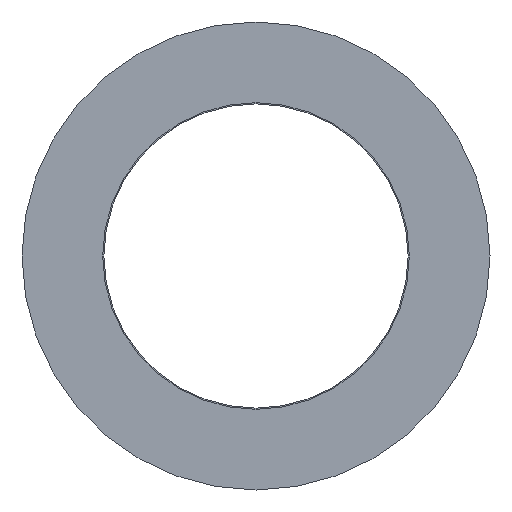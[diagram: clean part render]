
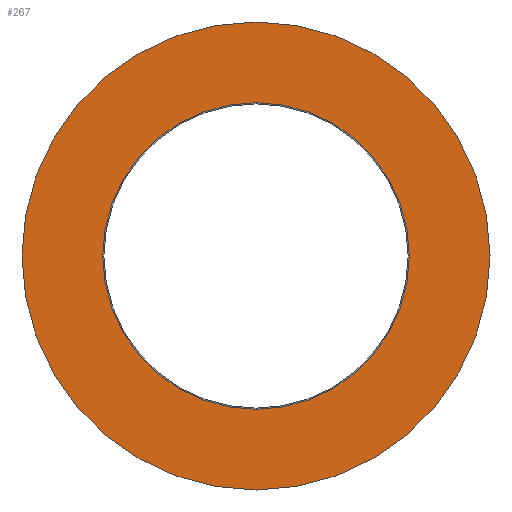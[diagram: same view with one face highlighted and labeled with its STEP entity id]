
A CAD part, left-side view. The second image highlights one B-rep face of the part: STEP entity #267.
In plain terms, the highlighted planar face has unit normal (-1, 0, 0).
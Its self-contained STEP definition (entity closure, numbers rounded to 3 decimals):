
#161=CARTESIAN_POINT('',(0.0,20.0,0.0));
#162=VERTEX_POINT('',#161);
#163=CARTESIAN_POINT('',(0.0,0.0,0.0));
#164=DIRECTION('',(1.0,0.0,0.0));
#165=DIRECTION('',(0.0,1.0,0.0));
#166=AXIS2_PLACEMENT_3D('',#163,#164,#165);
#167=CIRCLE('',#166,20.0);
#168=EDGE_CURVE('',#162,#162,#167,.T.);
#241=CARTESIAN_POINT('',(0.0,13.1,0.0));
#242=VERTEX_POINT('',#241);
#243=CARTESIAN_POINT('',(0.0,0.0,0.0));
#244=DIRECTION('',(1.0,0.0,0.0));
#245=DIRECTION('',(0.0,1.0,0.0));
#246=AXIS2_PLACEMENT_3D('',#243,#244,#245);
#247=CIRCLE('',#246,13.1);
#248=EDGE_CURVE('',#242,#242,#247,.T.);
#256=CARTESIAN_POINT('',(0.0,16.55,0.0));
#257=DIRECTION('',(-1.0,0.0,0.0));
#258=DIRECTION('',(0.0,0.0,1.0));
#259=AXIS2_PLACEMENT_3D('',#256,#257,#258);
#260=PLANE('',#259);
#261=ORIENTED_EDGE('',*,*,#168,.F.);
#262=EDGE_LOOP('',(#261));
#263=FACE_OUTER_BOUND('',#262,.T.);
#264=ORIENTED_EDGE('',*,*,#248,.T.);
#265=EDGE_LOOP('',(#264));
#266=FACE_BOUND('',#265,.T.);
#267=ADVANCED_FACE('',(#263,#266),#260,.T.);
